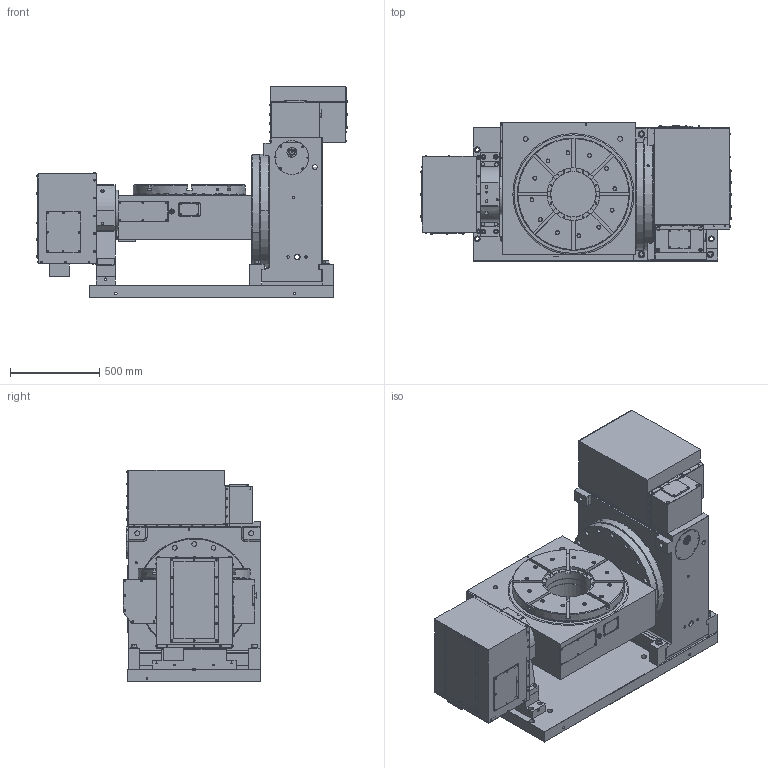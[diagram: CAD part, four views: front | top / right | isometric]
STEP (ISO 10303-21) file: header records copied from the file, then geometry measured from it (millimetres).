
FILE_DESCRIPTION (( 'STEP AP203' ), '1' );
FILE_NAME ('1524484.STEP', '2020-11-26T05:09:25', ( '' ), ( '' ), 'SwSTEP 2.0', 'SolidWorks 2019', '' );
FILE_SCHEMA (( 'CONFIG_CONTROL_DESIGN' ));
Products named in the file (1): 1524484
Bounding box: 1744.7 x 775 x 1190 mm (x, y, z)
Surface area: 10596939.6 mm2 (no closed solid volume)
Topology: 0 solids, 263 shells, 1196 faces, 5153 edges, 4078 vertices
Faces by surface type: cylinder 602, plane 445, cone 139, torus 10
Entity records: 56532 total; most frequent: CARTESIAN_POINT 11803, DIRECTION 10335, ORIENTED_EDGE 7025, EDGE_CURVE 5153, VERTEX_POINT 4078, AXIS2_PLACEMENT_3D 4078, CIRCLE 2881, VECTOR 2179
